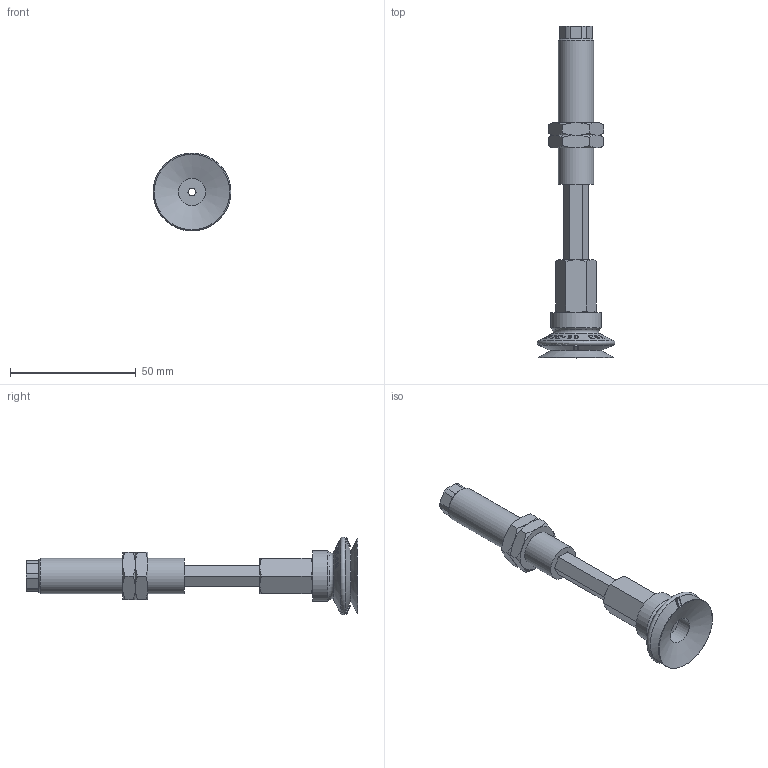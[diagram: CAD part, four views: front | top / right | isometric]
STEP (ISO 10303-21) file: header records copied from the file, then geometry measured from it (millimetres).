
FILE_DESCRIPTION(('STEP AP214'),'1');
FILE_NAME('.stp','2026-01-21T06:54:31',(' '),(' '),'Spatial InterOp 3D',' ',' ');
FILE_SCHEMA(('AUTOMOTIVE_DESIGN { 1 0 10303 214 1 1 1 1 }'));
Length unit declared in the file: millimetre
Products named in the file (7): BNABPJTH-30-30-※; ADAPTER; NAPJTH-30-30-MBODY; BPJG-30-※; Adapter-30-NAPJ; NAPJH-30-30-NUT; NAPJTH-30-30-FBODY
Assembly tree (7 placements, depth 2):
  BNABPJTH-30-30-※
    ADAPTER
    NAPJTH-30-30-MBODY
    BPJG-30-※
    Adapter-30-NAPJ
    NAPJH-30-30-NUT  x2
    NAPJTH-30-30-FBODY
Bounding box: 30.99 x 132 x 30.99 mm (x, y, z)
Volume: 21808.8 mm3; surface area: 15805.1 mm2
Topology: 7 solids, 7 shells, 780 faces, 2171 edges, 1426 vertices
Faces by surface type: plane 679, cone 67, cylinder 27, torus 7
Full cylindrical faces by diameter (mm): 3 x3, 4.134 x1, 4.917 x1, 5.8 x1, 6 x1, 10.8 x1, 11 x1, 13.188 x2, 14 x1, 20 x1
Entity records: 31265 total; most frequent: CARTESIAN_POINT 7744, ORIENTED_EDGE 4182, DIRECTION 2635, EDGE_CURVE 2091, VERTEX_POINT 1394, B_SPLINE_CURVE_WITH_KNOTS 1084, LINE 909, VECTOR 909
